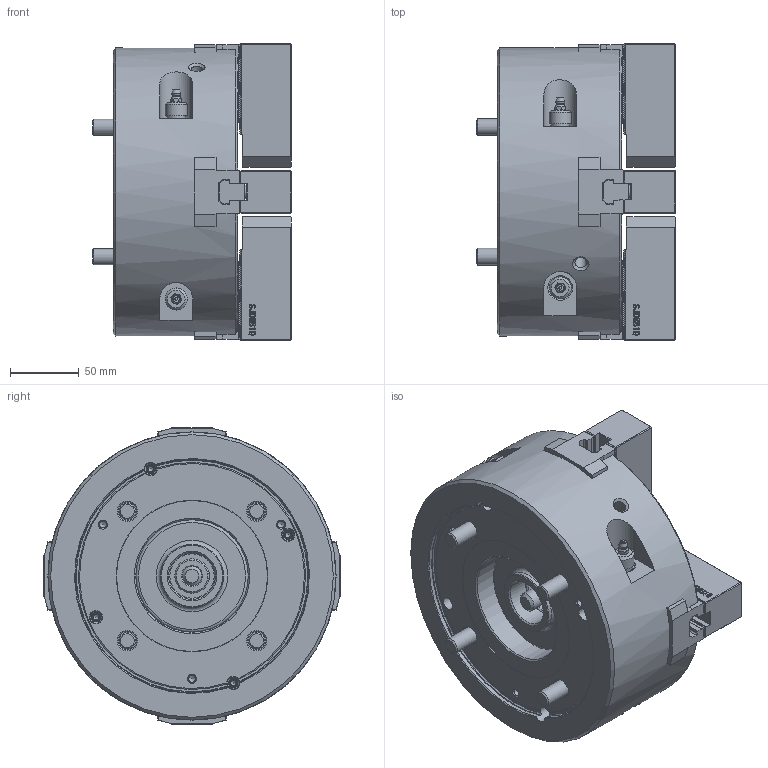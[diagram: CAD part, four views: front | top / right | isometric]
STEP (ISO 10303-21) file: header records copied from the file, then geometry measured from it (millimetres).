
FILE_DESCRIPTION (( 'STEP AP214' ), '1' );
FILE_NAME ('DT1_HW-08_OUTSIDE_VIEW_UC.STEP', '2024-05-09T23:39:46', ( '' ), ( '' ), 'SwSTEP 2.0', 'SolidWorks 2022', '' );
FILE_SCHEMA (( 'AUTOMOTIVE_DESIGN' ));
Length unit declared in the file: millimetre
Products named in the file (11): DT1_HW-08_M12x90^DT1_HW-08_ﾃﾞﾌｫﾙﾄ; Copy of 0080010810^DT1_HW-08_ﾃﾞﾌｫﾙﾄ; DT1_HW-08_TNUT^DT1_HW-08_ﾃﾞﾌｫﾙﾄ; DT1_HW08_DRAWSCREW^DT1_HW-08_ﾃﾞﾌｫﾙﾄ; DT1_HW-08_DN^DT1_HW-08_ﾃﾞﾌｫﾙﾄ; DT1_HW-08_OUTSIDE_VIEW_UC; DT1_HW-08_M5x10^DT1_HW-08_ﾃﾞﾌｫﾙﾄ; DT1_HW-08_SOFTJAW^DT1_HW-08_ﾃﾞﾌｫﾙﾄ; DT1_HW-08_COVER^DT1_HW-08_ﾃﾞﾌｫﾙﾄ; DT1_HW-08_M10x25^DT1_HW-08_ﾃﾞﾌｫﾙﾄ; DT1_HW-08_BASE^DT1_HW-08_ﾃﾞﾌｫﾙﾄ
Assembly tree (29 placements, depth 2):
  DT1_HW-08_OUTSIDE_VIEW_UC
    DT1_HW-08_SOFTJAW^DT1_HW-08_ﾃﾞﾌｫﾙﾄ  x4
    DT1_HW-08_TNUT^DT1_HW-08_ﾃﾞﾌｫﾙﾄ  x4
    DT1_HW-08_COVER^DT1_HW-08_ﾃﾞﾌｫﾙﾄ
    DT1_HW08_DRAWSCREW^DT1_HW-08_ﾃﾞﾌｫﾙﾄ
    DT1_HW-08_BASE^DT1_HW-08_ﾃﾞﾌｫﾙﾄ
    DT1_HW-08_DN^DT1_HW-08_ﾃﾞﾌｫﾙﾄ
    DT1_HW-08_M12x90^DT1_HW-08_ﾃﾞﾌｫﾙﾄ  x4
    DT1_HW-08_M10x25^DT1_HW-08_ﾃﾞﾌｫﾙﾄ  x8
    DT1_HW-08_M5x10^DT1_HW-08_ﾃﾞﾌｫﾙﾄ  x4
    Copy of 0080010810^DT1_HW-08_ﾃﾞﾌｫﾙﾄ
Bounding box: 145 x 216.13 x 216.13 mm (x, y, z)
Volume: 3222974.7 mm3; surface area: 343756.3 mm2
Topology: 29 solids, 37 shells, 4986 faces, 14028 edges, 9273 vertices
Faces by surface type: plane 3230, cylinder 891, bspline 560, cone 264, torus 37, sphere 4
Full cylindrical faces by diameter (mm): 2 x4, 4.2 x4, 5 x7, 5.5 x4, 6 x1, 6.8 x4, 8 x1, 8.5 x2, 8.6 x8, 9.5 x8, 10 x12, 11 x8, 12 x5, 12.2 x1, 13.5 x8, 14 x2, 16 x4, 16.1 x4, 16.27 x8, 17 x8, 18.27 x4, 20 x4, 21 x2, 25 x1, 32.376 x1, 34 x1, 35 x2, 46 x1, 82 x1, 110 x1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
Entity records: 105581 total; most frequent: CARTESIAN_POINT 31604, ORIENTED_EDGE 16600, DIRECTION 12933, EDGE_CURVE 8300, VECTOR 6037, LINE 6037, VERTEX_POINT 5579, AXIS2_PLACEMENT_3D 3448
